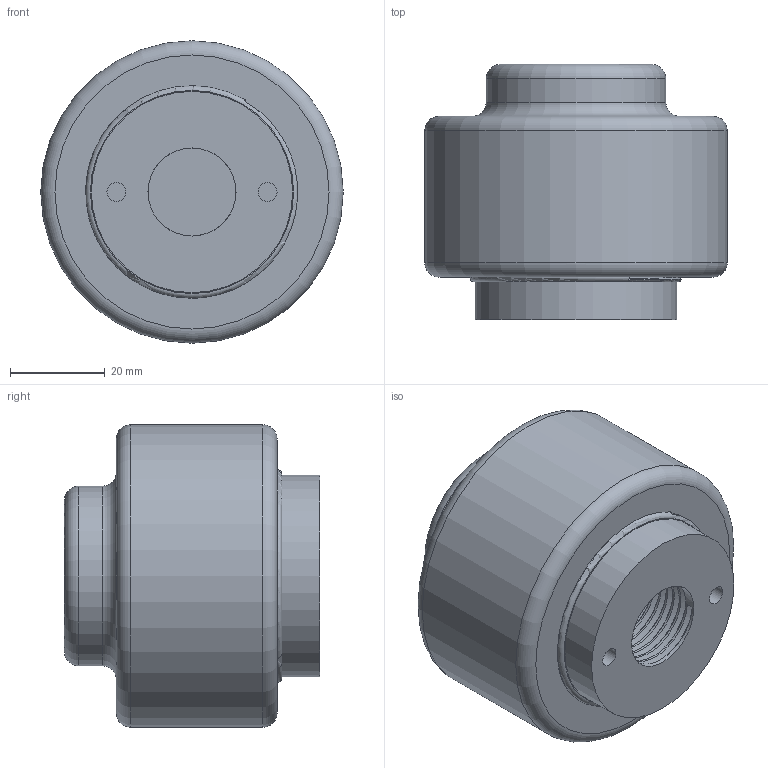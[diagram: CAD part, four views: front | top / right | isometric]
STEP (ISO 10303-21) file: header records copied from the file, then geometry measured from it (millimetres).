
FILE_DESCRIPTION (( 'STEP AP214' ), '1' );
FILE_NAME ('1-2-P701-0X.STEP', '2021-06-02T08:25:12', ( '' ), ( '' ), 'SwSTEP 2.0', 'SolidWorks 2020', '' );
FILE_SCHEMA (( 'AUTOMOTIVE_DESIGN' ));
Length unit declared in the file: millimetre
Products named in the file (5): 0.25 inch gauge seal plug.STEP.STEP; 0.25 inch gauge seal housing.STEP.STEP; 1-2-P701-0X; 1-2-P142-03.STEP; 1-2-P142-03.STEP.STEP
Assembly tree (4 placements, depth 4):
  1-2-P701-0X
    1-2-P142-03.STEP
      1-2-P142-03.STEP.STEP
        0.25 inch gauge seal housing.STEP.STEP
        0.25 inch gauge seal plug.STEP.STEP
Bounding box: 64 x 54 x 64 mm (x, y, z)
Volume: 125137.9 mm3; surface area: 26560.7 mm2
Topology: 2 solids, 2 shells, 71 faces, 173 edges, 113 vertices
Faces by surface type: cylinder 32, plane 19, bspline 13, torus 5, cone 2
Full cylindrical faces by diameter (mm): 4 x2, 11.445 x8, 18.631 x7, 38 x1, 42.6 x1, 44.5 x9, 64 x1
Entity records: 6969 total; most frequent: CARTESIAN_POINT 6018, ORIENTED_EDGE 160, DIRECTION 154, EDGE_CURVE 80, EDGE_LOOP 71, AXIS2_PLACEMENT_3D 70, FACE_OUTER_BOUND 61, VERTEX_POINT 59
